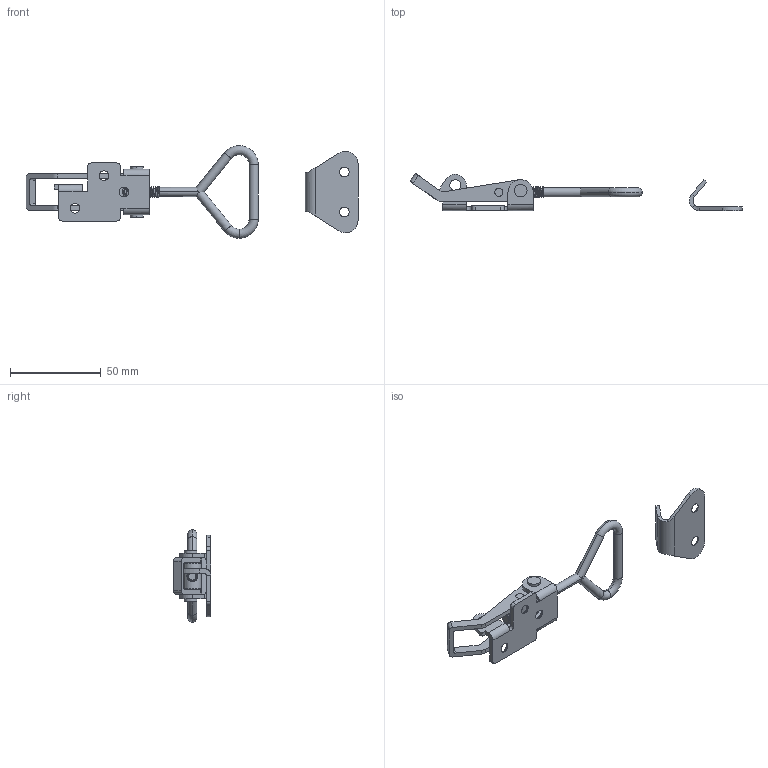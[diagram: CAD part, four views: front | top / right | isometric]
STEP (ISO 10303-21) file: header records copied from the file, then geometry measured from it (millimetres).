
FILE_DESCRIPTION (( 'STEP AP203' ), '1' );
FILE_NAME ('SK3-016-2S-T.STEP', '2018-11-01T07:51:24', ( 'admin' ), ( 'Microsoft' ), 'SwSTEP 2.0', 'SolidWorks 2015', '' );
FILE_SCHEMA (( 'CONFIG_CONTROL_DESIGN' ));
Length unit declared in the file: millimetre
Products named in the file (7): SK3-016-2S-T-6; SK3-016-2S-T-1; SK3-016-2S-T-3; SK3-016-2S-T-4; SK3-016-2S-T-5; SK3-016-2S-T-2; SK3-016-2S-T
Assembly tree (7 placements, depth 2):
  SK3-016-2S-T
    SK3-016-2S-T-6
    SK3-016-2S-T-1
    SK3-016-2S-T-3
    SK3-016-2S-T-4
    SK3-016-2S-T-5  x2
    SK3-016-2S-T-2
Bounding box: 183 x 20.5 x 50.98 mm (x, y, z)
Volume: 14236.5 mm3; surface area: 14846.7 mm2
Topology: 7 solids, 7 shells, 250 faces, 648 edges, 416 vertices
Faces by surface type: cylinder 154, plane 68, cone 10, bspline 9, torus 9
Entity records: 12560 total; most frequent: CARTESIAN_POINT 6142, ORIENTED_EDGE 1272, DIRECTION 1127, EDGE_CURVE 636, AXIS2_PLACEMENT_3D 427, VERTEX_POINT 408, VECTOR 273, LINE 273
